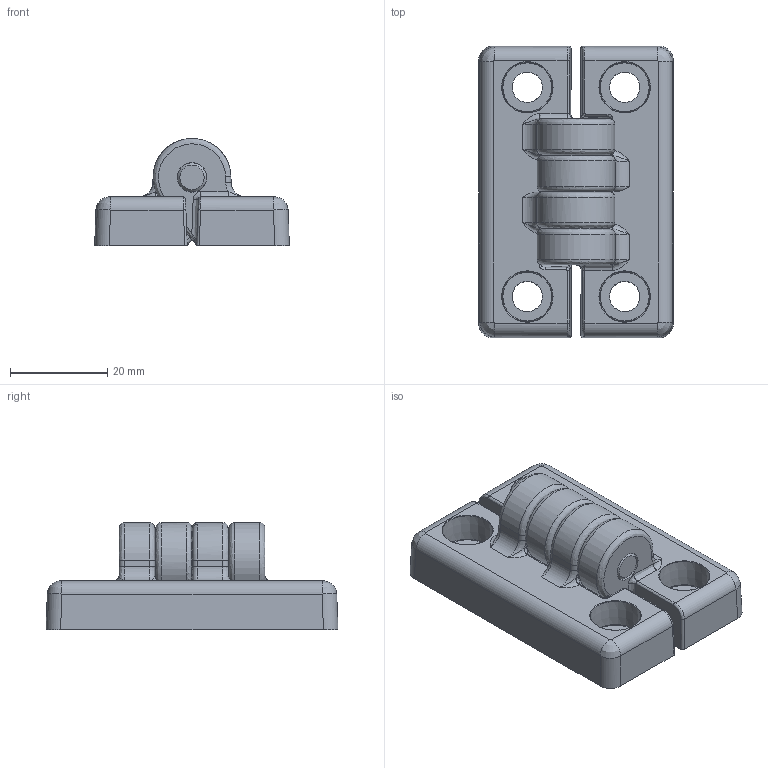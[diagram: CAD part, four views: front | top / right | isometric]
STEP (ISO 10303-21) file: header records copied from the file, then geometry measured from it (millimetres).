
FILE_DESCRIPTION (( 'STEP AP214' ), '1' );
FILE_NAME ('F31173A.step', '2024-12-03T16:17:28', ( '' ), ( '' ), 'SwSTEP 2.0', 'SolidWorks 2023', '' );
FILE_SCHEMA (( 'AUTOMOTIVE_DESIGN' ));
Length unit declared in the file: millimetre
Products named in the file (3): N30158; L19180A; F31173A
Assembly tree (3 placements, depth 2):
  F31173A
    L19180A  x2
    N30158
Bounding box: 40 x 60 x 22 mm (x, y, z)
Volume: 24468 mm3; surface area: 11570.6 mm2
Topology: 3 solids, 3 shells, 446 faces, 1129 edges, 691 vertices
Faces by surface type: plane 250, cylinder 96, bspline 72, torus 18, cone 10
Full cylindrical faces by diameter (mm): 6 x1, 6.05 x4, 8 x4
Entity records: 16267 total; most frequent: CARTESIAN_POINT 8575, ORIENTED_EDGE 1656, DIRECTION 1484, EDGE_CURVE 828, AXIS2_PLACEMENT_3D 537, VERTEX_POINT 517, LINE 410, VECTOR 410
